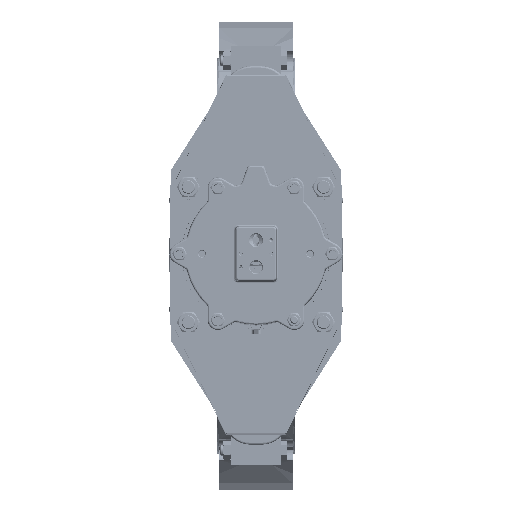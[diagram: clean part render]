
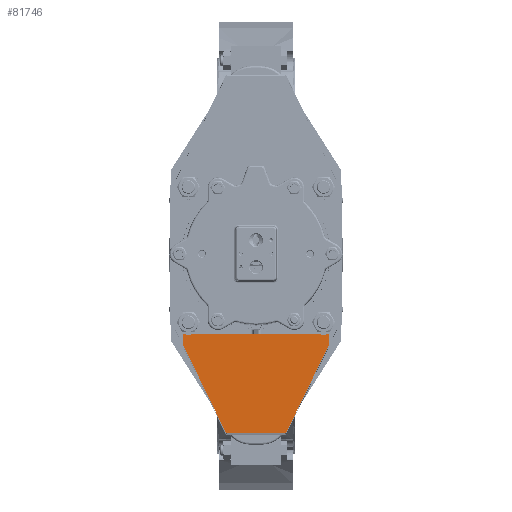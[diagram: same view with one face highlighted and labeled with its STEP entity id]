
A CAD part, top view. The second image highlights one B-rep face of the part: STEP entity #81746.
In plain terms, the highlighted planar face has unit normal (0, 0, 1).
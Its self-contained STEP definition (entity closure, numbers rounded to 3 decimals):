
#5710=PLANE('',#89026);
#8857=FACE_OUTER_BOUND('',#14153,.T.);
#14153=EDGE_LOOP('',(#65744,#65745,#65746,#65747,#65748,#65749,#65750,#65751));
#26116=LINE('',#137743,#31164);
#26122=LINE('',#137755,#31170);
#26123=LINE('',#137758,#31171);
#26126=LINE('',#137764,#31174);
#26129=LINE('',#137770,#31177);
#26132=LINE('',#137776,#31180);
#26135=LINE('',#137781,#31183);
#26138=LINE('',#137786,#31186);
#31164=VECTOR('',#106687,10.);
#31170=VECTOR('',#106695,10.);
#31171=VECTOR('',#106698,10.);
#31174=VECTOR('',#106703,10.);
#31177=VECTOR('',#106708,10.);
#31180=VECTOR('',#106713,10.);
#31183=VECTOR('',#106718,10.);
#31186=VECTOR('',#106725,10.);
#37702=VERTEX_POINT('',#137739);
#37704=VERTEX_POINT('',#137742);
#37707=VERTEX_POINT('',#137749);
#37709=VERTEX_POINT('',#137753);
#37710=VERTEX_POINT('',#137757);
#37712=VERTEX_POINT('',#137763);
#37714=VERTEX_POINT('',#137769);
#37716=VERTEX_POINT('',#137775);
#47788=EDGE_CURVE('',#37702,#37704,#26116,.T.);
#47794=EDGE_CURVE('',#37709,#37707,#26122,.T.);
#47795=EDGE_CURVE('',#37704,#37710,#26123,.T.);
#47798=EDGE_CURVE('',#37710,#37712,#26126,.T.);
#47801=EDGE_CURVE('',#37712,#37714,#26129,.T.);
#47804=EDGE_CURVE('',#37714,#37716,#26132,.T.);
#47807=EDGE_CURVE('',#37716,#37709,#26135,.T.);
#47810=EDGE_CURVE('',#37707,#37702,#26138,.T.);
#65744=ORIENTED_EDGE('',*,*,#47794,.F.);
#65745=ORIENTED_EDGE('',*,*,#47807,.F.);
#65746=ORIENTED_EDGE('',*,*,#47804,.F.);
#65747=ORIENTED_EDGE('',*,*,#47801,.F.);
#65748=ORIENTED_EDGE('',*,*,#47798,.F.);
#65749=ORIENTED_EDGE('',*,*,#47795,.F.);
#65750=ORIENTED_EDGE('',*,*,#47788,.F.);
#65751=ORIENTED_EDGE('',*,*,#47810,.F.);
#81746=ADVANCED_FACE('',(#8857),#5710,.F.);
#89026=AXIS2_PLACEMENT_3D('',#137785,#106723,#106724);
#106687=DIRECTION('',(-1.,0.,0.));
#106695=DIRECTION('',(-1.,0.,0.));
#106698=DIRECTION('',(-0.437,0.9,0.));
#106703=DIRECTION('',(0.,1.,0.));
#106708=DIRECTION('',(1.,0.,0.));
#106713=DIRECTION('',(0.,-1.,0.));
#106718=DIRECTION('',(-0.437,-0.9,0.));
#106723=DIRECTION('center_axis',(0.,0.,
-1.));
#106724=DIRECTION('ref_axis',(0.,-1.,0.));
#106725=DIRECTION('',(-1.,0.,0.));
#137739=CARTESIAN_POINT('',(-43.562,-264.113,1112.2));
#137742=CARTESIAN_POINT('',(-44.244,-264.113,1112.2));
#137743=CARTESIAN_POINT('',(-44.244,-264.113,1112.2));
#137749=CARTESIAN_POINT('',(43.562,-264.113,1112.2));
#137753=CARTESIAN_POINT('',(44.244,-264.113,1112.2));
#137755=CARTESIAN_POINT('',(-44.244,-264.113,1112.2));
#137757=CARTESIAN_POINT('',(-108.,-132.813,1112.2));
#137758=CARTESIAN_POINT('',(-108.,-132.813,1112.2));
#137763=CARTESIAN_POINT('',(-108.,-116.813,1112.2));
#137764=CARTESIAN_POINT('',(-108.,-116.813,1112.2));
#137769=CARTESIAN_POINT('',(108.,-116.813,1112.2));
#137770=CARTESIAN_POINT('',(108.,-116.813,1112.2));
#137775=CARTESIAN_POINT('',(108.,-132.813,1112.2));
#137776=CARTESIAN_POINT('',(108.,-132.813,1112.2));
#137781=CARTESIAN_POINT('',(44.244,-264.113,1112.2));
#137785=CARTESIAN_POINT('Origin',(0.,-175.892,
1112.2));
#137786=CARTESIAN_POINT('',(-43.562,-264.113,1112.2));
